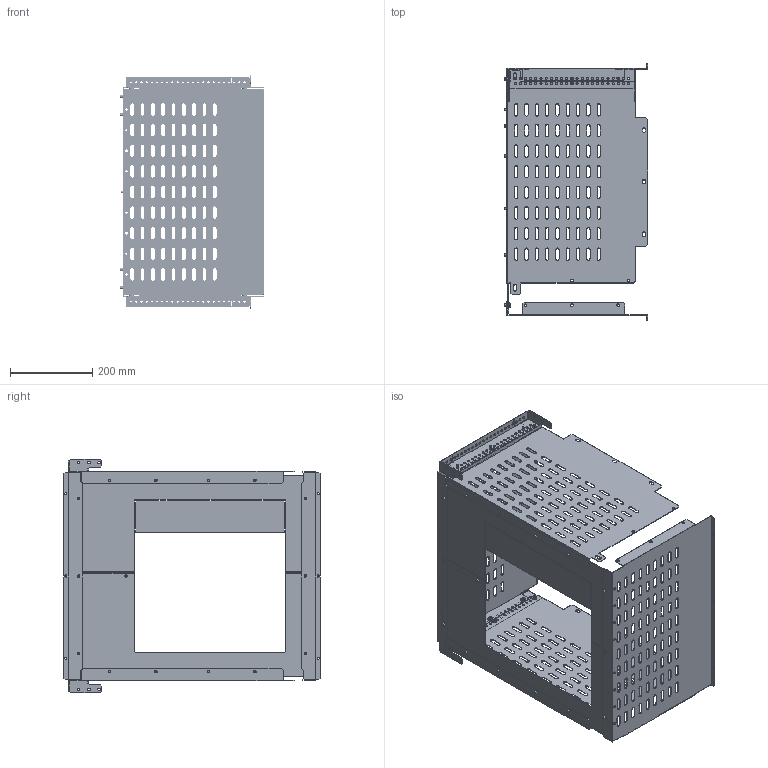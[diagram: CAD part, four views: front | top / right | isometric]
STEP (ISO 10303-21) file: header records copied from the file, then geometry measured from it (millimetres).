
FILE_DESCRIPTION (( 'STEP AP214' ), '1' );
FILE_NAME ('FO-00-3AABW-060-060 Êîìïëåêò ñåêöèîíèðîâàíèÿ 2a-3a äëÿ ARMAT ACB òèïîðàçìåð AIIB âûêàòíîãî èñïîëíåíèÿ 3II4P 600õ600.STEP', '2025-08-21T12:40:30', ( '' ), ( '' ), 'SwSTEP 2.0', 'SolidWorks 2023', '' );
FILE_SCHEMA (( 'AUTOMOTIVE_DESIGN' ));
Length unit declared in the file: millimetre
Products named in the file (1): FO-00-3AABW-060-060 Комплект секционирования 2a-3a для ARMAT ACB типоразмер AIIB выкатного исполнения 3II4P 600х600
Bounding box: 349 x 622 x 566 mm (x, y, z)
Volume: 1435499.9 mm3; surface area: 1822357 mm2
Topology: 1 solids, 17 shells, 3080 faces, 8793 edges, 5799 vertices
Faces by surface type: cylinder 1754, plane 1164, sphere 54, cone 54, torus 54
Entity records: 104737 total; most frequent: CARTESIAN_POINT 20135, DIRECTION 17812, ORIENTED_EDGE 17586, EDGE_CURVE 8793, AXIS2_PLACEMENT_3D 6440, VERTEX_POINT 5799, LINE 4932, VECTOR 4932
